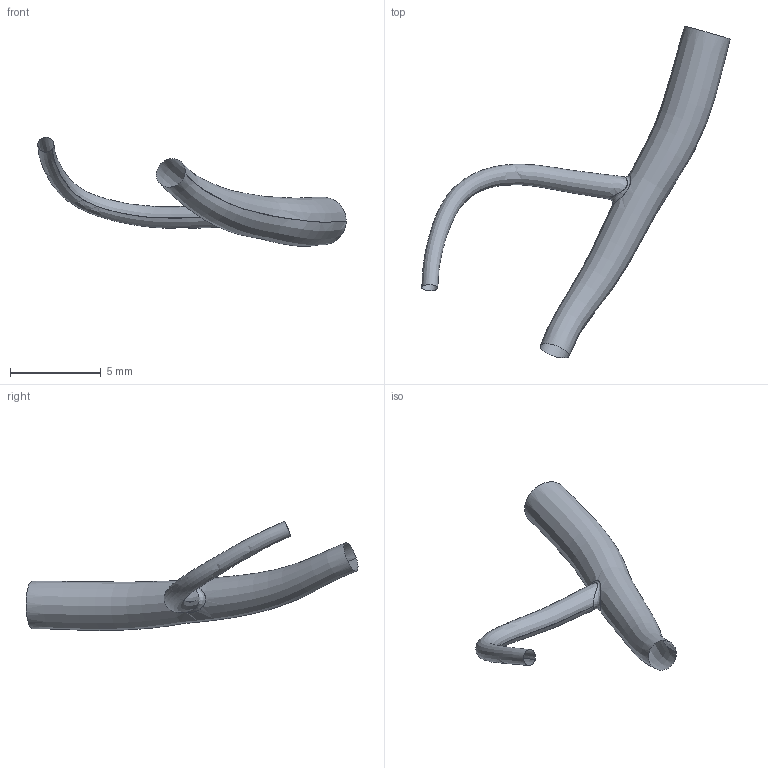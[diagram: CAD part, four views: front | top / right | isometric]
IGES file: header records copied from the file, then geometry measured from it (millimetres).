
Global section: file name: C:\Documents and Settings\Administrator\Desktop\FDA-Pig\Domestic RCA\Pig_000138\avc.ed.igs; native system: Rhinoceros ( May 19 2006 ); preprocessor: Trout Lake IGES 012 May 19 2006; date: 111205.185919; units: centimetre
Bounding box: 17.04 x 18.34 x 6.03 mm (x, y, z)
Surface area: 196.6 mm2 (no closed solid volume)
Topology: 0 solids, 0 shells, 3 faces, 28 edges, 25 vertices
Faces by surface type: bspline 3
